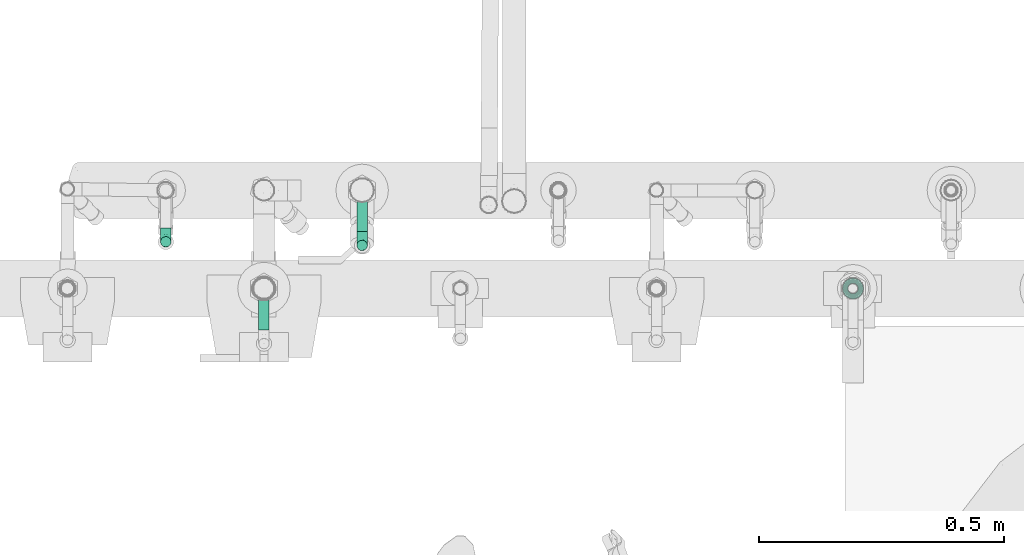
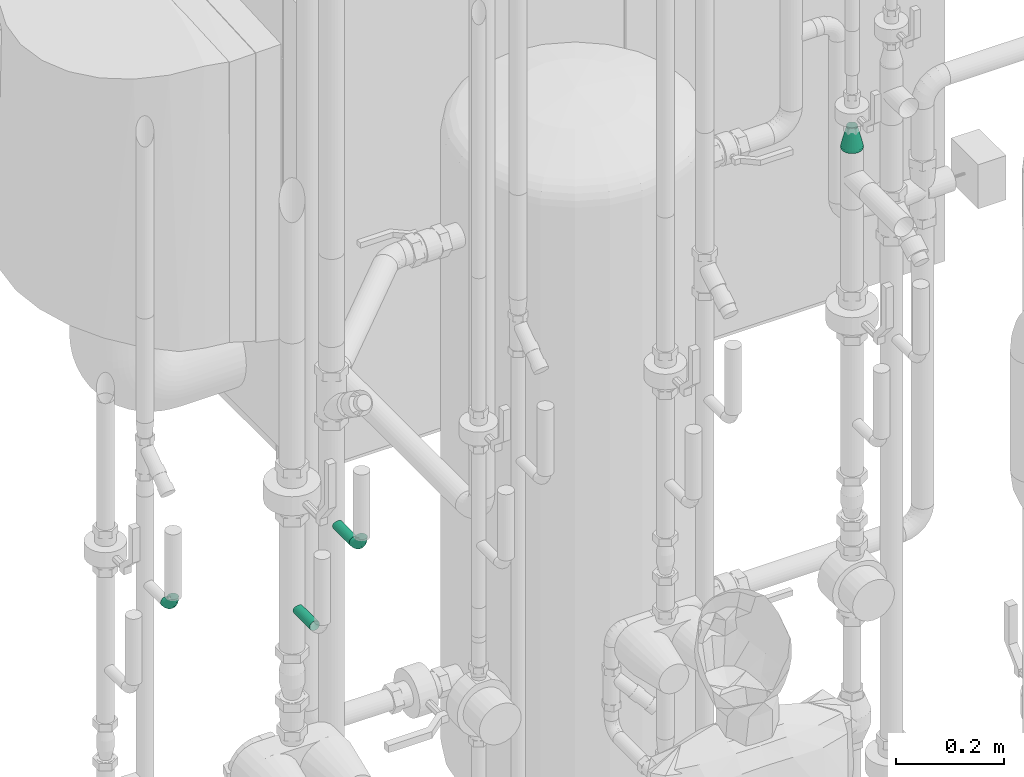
# One storey, part 191 of 374: 4 flow segments, 1 flow fitting.
"""IFC2X3 building model written with IfcOpenShell, lengths in metres."""

from ifc_helpers import new_model, si_unit, direction, origin, place, context, subcontext, project, spatial, open_shell, surface_model, source, transform, mapped, element, save


model = new_model("IFC2X3")

# Units and contexts
model_context = context("Model", 3, precision=1e-05, world=origin(), true_north=direction((-0.4480736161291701, 0.8939966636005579)))
body_context = subcontext(model_context, "Body", "Model", "MODEL_VIEW")
ifc_project = project(units=[si_unit("LENGTHUNIT", "METRE"), si_unit("AREAUNIT", "SQUARE_METRE"), si_unit("VOLUMEUNIT", "CUBIC_METRE"), si_unit("PLANEANGLEUNIT", "RADIAN"), si_unit("THERMODYNAMICTEMPERATUREUNIT", "KELVIN"), si_unit("MASSUNIT", "GRAM", prefix="KILO"), si_unit("TIMEUNIT", "SECOND")], contexts=[model_context])

# Site, building, storey
site_placement = place(None, origin())
site = spatial("IfcSite", under=ifc_project, at=site_placement, Name="Site 1", CompositionType="ELEMENT")
building_placement = place(site_placement, origin())
building = spatial("IfcBuilding", under=site, at=building_placement, Name="Undefined", CompositionType="ELEMENT")
storey_placement = place(building_placement, origin())
storey = spatial("IfcBuildingStorey", under=building, at=storey_placement, Name="Rez de chauss\x8ee", CompositionType="ELEMENT", Elevation=0.0)

# Flow fitting
shared_shape_1 = source(origin(), body_context, "Body", "SurfaceModel", [
    surface_model("IfcFaceBasedSurfaceModel", [(0.0, 0.0, 0.0), (0.005534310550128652, 0.0, 0.0), (0.005534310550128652, 0.004604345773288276, 0.0), (-8.8817842e-16, 0.004604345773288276, 7.105427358e-15), (0.010880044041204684, 0.0, -0.0014323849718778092), (0.010880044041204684, 0.004604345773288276, -0.0014323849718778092), (0.015672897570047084, 0.0, -0.004199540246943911), (0.015672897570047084, 0.004604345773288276, -0.004199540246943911), (0.01958624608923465, 0.0, -0.008112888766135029), (0.01958624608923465, 0.004604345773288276, -0.008112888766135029), (0.022353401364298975, 0.0, -0.012905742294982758), (0.022353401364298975, 0.004604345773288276, -0.012905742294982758), (0.023785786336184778, 0.0, -0.018251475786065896), (0.023785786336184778, 0.004604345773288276, -0.018251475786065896), (0.023785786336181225, 0.0, -0.02378578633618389), (0.023785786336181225, 0.004604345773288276, -0.02378578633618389), (0.022353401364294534, 0.0, -0.029131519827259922), (0.022353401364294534, 0.004604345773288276, -0.029131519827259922), (0.019586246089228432, 0.0, -0.033924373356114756), (0.019586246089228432, 0.004604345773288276, -0.033924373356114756), (0.01567289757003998, 0.0, -0.03783772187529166), (0.01567289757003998, 0.004604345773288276, -0.03783772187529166), (0.010880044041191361, 0.0, -0.040604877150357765), (0.010880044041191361, 0.004604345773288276, -0.040604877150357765), (0.005534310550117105, 0.0, -0.04203726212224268), (0.005534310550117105, 0.004604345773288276, -0.04203726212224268), (0.0, 6.4837024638e-14, -0.042037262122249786), (-1.5099033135e-14, 0.004604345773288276, -0.042037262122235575), (-0.0053457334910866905, 0.0, -0.040604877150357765), (-0.0053457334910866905, 0.004604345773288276, -0.040604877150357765), (-0.010138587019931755, 0.0, -0.03783772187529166), (-0.010138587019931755, 0.004604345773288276, -0.03783772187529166), (-0.01405193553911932, 0.0, -0.033924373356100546), (-0.01405193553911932, 0.004604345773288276, -0.033924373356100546), (-0.016819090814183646, 0.0, -0.029131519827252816), (-0.016819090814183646, 0.004604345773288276, -0.029131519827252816), (-0.01825147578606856, 0.0, -0.02378578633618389), (-0.01825147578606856, 0.004604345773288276, -0.02378578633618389), (-0.018251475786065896, 0.0, -0.018251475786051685), (-0.018251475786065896, 0.004604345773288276, -0.018251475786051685), (-0.016819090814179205, 0.0, -0.012905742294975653), (-0.016819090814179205, 0.004604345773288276, -0.012905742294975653), (-0.014051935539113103, 0.0, -0.008112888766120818), (-0.014051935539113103, 0.004604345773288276, -0.008112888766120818), (-0.010138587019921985, 0.0, -0.004199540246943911), (-0.010138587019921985, 0.004604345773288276, -0.004199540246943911), (-0.005345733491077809, 0.0, -0.0014323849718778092), (-0.005345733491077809, 0.004604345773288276, -0.0014323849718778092), (-0.007791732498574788, 0.04708109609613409, -0.019628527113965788), (-0.0077917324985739, 0.04708109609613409, -0.02240873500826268), (-0.00707216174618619, 0.04708109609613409, -0.01694305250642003), (-0.00568205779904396, 0.04708109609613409, -0.014535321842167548), (-0.0037161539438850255, 0.04708109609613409, -0.012569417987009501), (-0.0013084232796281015, 0.04708109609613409, -0.011179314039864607), (0.0013770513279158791, 0.04708109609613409, -0.010459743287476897), (0.004157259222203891, 0.04708109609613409, -0.010459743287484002), (0.006842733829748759, 0.04708109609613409, -0.011179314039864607), (0.009250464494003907, 0.04708109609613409, -0.012569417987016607), (0.011216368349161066, 0.04708109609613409, -0.014535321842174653), (0.012606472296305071, 0.04708109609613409, -0.01694305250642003), (0.013326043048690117, 0.04708109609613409, -0.019628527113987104), (0.013326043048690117, 0.04708109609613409, -0.02240873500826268), (0.012606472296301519, 0.04708109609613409, -0.025094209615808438), (0.011216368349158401, 0.04708109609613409, -0.02750194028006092), (0.009250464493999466, 0.04708109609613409, -0.029467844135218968), (0.00684273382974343, 0.04708109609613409, -0.030857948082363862), (0.004157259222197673, 0.04708109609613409, -0.03157751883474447), (0.0013770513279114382, 0.04708109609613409, -0.03157751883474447), (-0.0013084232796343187, 0.04708109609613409, -0.030857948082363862), (-0.0037161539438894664, 0.04708109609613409, -0.029467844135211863), (-0.005682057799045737, 0.04708109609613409, -0.027501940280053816), (-0.007072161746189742, 0.04708109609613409, -0.025094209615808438), (0.004157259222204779, 0.04999999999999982, -0.010459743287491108), (0.0013770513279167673, 0.04999999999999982, -0.010459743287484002), (0.006842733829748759, 0.04999999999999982, -0.011179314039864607), (0.00925046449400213, 0.04999999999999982, -0.012569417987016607), (0.011216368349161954, 0.04999999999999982, -0.014535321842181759), (0.012606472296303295, 0.04999999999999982, -0.01694305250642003), (0.01332604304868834, 0.04999999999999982, -0.019628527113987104), (0.013326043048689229, 0.04999999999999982, -0.022408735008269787), (0.012606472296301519, 0.04999999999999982, -0.025094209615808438), (0.011216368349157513, 0.04999999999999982, -0.027501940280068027), (0.009250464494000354, 0.04999999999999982, -0.029467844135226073), (0.00684273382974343, 0.04999999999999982, -0.030857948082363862), (0.004157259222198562, 0.04999999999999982, -0.03157751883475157), (0.0013770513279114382, 0.04999999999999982, -0.03157751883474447), (-0.0013084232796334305, 0.04999999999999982, -0.030857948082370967), (-0.003716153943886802, 0.04999999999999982, -0.029467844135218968), (-0.005682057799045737, 0.04999999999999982, -0.027501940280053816), (-0.007072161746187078, 0.04999999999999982, -0.025094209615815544), (-0.007791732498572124, 0.04999999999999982, -0.02240873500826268), (-0.007791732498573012, 0.04999999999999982, -0.019628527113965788), (-0.0070721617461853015, 0.04999999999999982, -0.016943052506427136), (-0.005682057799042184, 0.04999999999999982, -0.014535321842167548), (-0.0037161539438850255, 0.04999999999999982, -0.012569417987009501), (-0.0013084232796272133, 0.04999999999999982, -0.011179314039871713)], [open_shell([[[0, 1, 2, 3]], [[1, 4, 5, 2]], [[4, 6, 7, 5]], [[6, 8, 9, 7]], [[8, 10, 11, 9]], [[10, 12, 13, 11]], [[12, 14, 15, 13]], [[14, 16, 17, 15]], [[16, 18, 19, 17]], [[18, 20, 21, 19]], [[20, 22, 23, 21]], [[22, 24, 25, 23]], [[24, 26, 27, 25]], [[26, 28, 29, 27]], [[28, 30, 31, 29]], [[30, 32, 33, 31]], [[32, 34, 35, 33]], [[34, 36, 37, 35]], [[36, 38, 39, 37]], [[38, 40, 41, 39]], [[40, 42, 43, 41]], [[42, 44, 45, 43]], [[44, 46, 47, 45]], [[46, 0, 3, 47]], [[37, 39, 48, 49]], [[39, 41, 50, 48]], [[41, 43, 51, 50]], [[43, 45, 52, 51]], [[45, 47, 53, 52]], [[47, 3, 54, 53]], [[3, 2, 55, 54]], [[2, 5, 56, 55]], [[5, 7, 57, 56]], [[7, 9, 58, 57]], [[9, 11, 59, 58]], [[11, 13, 60, 59]], [[13, 15, 61, 60]], [[15, 17, 62, 61]], [[17, 19, 63, 62]], [[19, 21, 64, 63]], [[21, 23, 65, 64]], [[23, 25, 66, 65]], [[25, 27, 67, 66]], [[27, 29, 68, 67]], [[29, 31, 69, 68]], [[31, 33, 70, 69]], [[33, 35, 71, 70]], [[35, 37, 49, 71]], [[54, 55, 72, 73]], [[55, 56, 74, 72]], [[56, 57, 75, 74]], [[57, 58, 76, 75]], [[58, 59, 77, 76]], [[59, 60, 78, 77]], [[60, 61, 79, 78]], [[61, 62, 80, 79]], [[62, 63, 81, 80]], [[63, 64, 82, 81]], [[64, 65, 83, 82]], [[65, 66, 84, 83]], [[66, 67, 85, 84]], [[67, 68, 86, 85]], [[68, 69, 87, 86]], [[69, 70, 88, 87]], [[70, 71, 89, 88]], [[71, 49, 90, 89]], [[49, 48, 91, 90]], [[48, 50, 92, 91]], [[50, 51, 93, 92]], [[51, 52, 94, 93]], [[52, 53, 95, 94]], [[53, 54, 73, 95]]])]),
])
flow_fitting_placement = place(storey_placement, origin())
element("IfcFlowFitting", 1, at=flow_fitting_placement, inside=storey, Name="Réduction", ObjectType="Réduction", context=body_context, shape_type="MappedRepresentation", body=[
    mapped(shared_shape_1, transform((53.6787620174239, 10.718037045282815, 2.0783203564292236), x_axis=(-0.13052619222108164, 0.9914448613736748, 0.0), y_axis=(0.0, 0.0, 1.0), z_axis=(0.9914448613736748, 0.13052619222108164, 0.0))),
])

# Flow segments
shared_shape_2 = source(origin(), body_context, "Body", "SurfaceModel", [
    surface_model("IfcFaceBasedSurfaceModel", [(0.010089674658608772, 0.0, 1.33226763e-15), (0.010042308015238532, 0.002779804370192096, 1.33226763e-15), (4.73666433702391e-05, 0.0027798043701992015, 4.4408921e-16), (0.0, 0.0, 0.0), (-0.009607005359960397, 0.00311462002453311, -0.0025651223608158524), (-0.00974587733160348, 0.0003379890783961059, -0.0025894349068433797), (-0.01826287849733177, 0.003761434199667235, -0.007520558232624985), (-0.018483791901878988, 0.000990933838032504, -0.007591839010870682), (-0.025330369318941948, 0.004676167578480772, -0.014528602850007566), (-0.025618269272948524, 0.001914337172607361, -0.014666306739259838), (-0.030327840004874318, 0.005796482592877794, -0.023111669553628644), (-0.030663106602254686, 0.003045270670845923, -0.023330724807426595), (-0.03291472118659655, 0.00704603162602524, -0.03268483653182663), (-0.03327450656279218, 0.004306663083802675, -0.0329946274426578), (0.009903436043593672, 0.005463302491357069, -0.000713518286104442), (0.000186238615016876, 0.005463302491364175, -0.0007135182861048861), (-0.009199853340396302, 0.005788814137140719, -0.0032073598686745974), (-0.017615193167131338, 0.006417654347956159, -0.008025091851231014), (-0.02448628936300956, 0.007306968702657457, -0.014838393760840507), (-0.029344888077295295, 0.008396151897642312, -0.023182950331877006), (-0.031859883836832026, 0.009610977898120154, -0.0324900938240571), (0.009682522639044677, 0.007867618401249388, -0.002091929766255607), (0.0004071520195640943, 0.007867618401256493, -0.002091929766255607), (-0.008552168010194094, 0.008178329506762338, -0.004472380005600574), (-0.0165848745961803, 0.008778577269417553, -0.00907105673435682), (-0.023143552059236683, 0.00962745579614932, -0.015574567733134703), (-0.027781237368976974, 0.010667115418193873, -0.023539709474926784), (-0.030181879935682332, 0.011826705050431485, -0.03242367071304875), (0.009394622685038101, 0.009828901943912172, -0.0040412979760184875), (0.000695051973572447, 0.009828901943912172, -0.0040412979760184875), (-0.007708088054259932, 0.010120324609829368, -0.006273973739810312), (-0.015242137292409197, 0.010683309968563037, -0.010587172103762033), (-0.02139366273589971, 0.011479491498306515, -0.01668695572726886), (-0.0257434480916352, 0.012454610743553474, -0.02415763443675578), (-0.027995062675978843, 0.013542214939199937, -0.03249009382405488), (0.00905935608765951, 0.011213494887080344, -0.006428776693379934), (0.0010303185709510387, 0.01121349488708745, -0.006428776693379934), (-0.006725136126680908, 0.011482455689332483, -0.00848936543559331), (-0.0136784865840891, 0.01200204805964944, -0.01247011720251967), (-0.01935587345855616, 0.012736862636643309, -0.018099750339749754), (-0.02337039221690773, 0.013636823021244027, -0.024994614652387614), (-0.02544846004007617, 0.014640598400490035, -0.03268483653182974), (0.008699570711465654, 0.01192703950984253, -0.009091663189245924), (0.001390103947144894, 0.01192703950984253, -0.009091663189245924), (-0.005670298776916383, 0.01217189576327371, -0.010967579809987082), (-0.01200048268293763, 0.012644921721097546, -0.014591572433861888), (-0.017169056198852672, 0.013313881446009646, -0.01971667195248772), (-0.02082378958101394, 0.014133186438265, -0.025993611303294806), (-0.02271561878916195, 0.01504700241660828, -0.032994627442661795), (0.008339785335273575, 0.011920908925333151, -0.011848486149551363), (0.0017498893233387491, 0.011920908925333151, -0.011848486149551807), (-0.0046154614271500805, 0.012141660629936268, -0.013539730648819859), (-0.01032247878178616, 0.012568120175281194, -0.016806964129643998), (-0.014982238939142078, 0.013171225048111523, -0.02142753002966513), (-0.018277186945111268, 0.01390987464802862, -0.027086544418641), (-0.01998277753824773, 0.01473373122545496, -0.033398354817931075), (0.008004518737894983, 0.011195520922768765, -0.01451137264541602), (0.0020851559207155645, 0.011195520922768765, -0.014511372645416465), (-0.003632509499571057, 0.011393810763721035, -0.016030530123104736), (-0.008758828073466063, 0.011776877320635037, -0.018965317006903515), (-0.01294444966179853, 0.012318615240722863, -0.023115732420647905), (-0.01590413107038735, 0.012982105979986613, -0.028198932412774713), (-0.017436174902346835, 0.013722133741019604, -0.03386850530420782), (0.007716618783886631, 0.009800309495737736, -0.016898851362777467), (0.002373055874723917, 0.009800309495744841, -0.016898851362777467), (-0.0027884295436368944, 0.009979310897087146, -0.018270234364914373), (-0.007416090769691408, 0.010325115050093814, -0.020919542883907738), (-0.01119456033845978, 0.010814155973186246, -0.024666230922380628), (-0.013866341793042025, 0.011413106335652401, -0.02925496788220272), (-0.015249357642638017, 0.012081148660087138, -0.03437303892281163), (0.007495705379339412, 0.007830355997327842, -0.018848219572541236), (0.002593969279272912, 0.007830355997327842, -0.018848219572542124), (-0.00214074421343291, 0.00799455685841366, -0.02010621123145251), (-0.006385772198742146, 0.008311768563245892, -0.022536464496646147), (-0.009851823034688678, 0.008760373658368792, -0.025973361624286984), (-0.012302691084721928, 0.00930980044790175, -0.03018268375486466), (-0.013571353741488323, 0.009922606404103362, -0.034877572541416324), (0.007356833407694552, 0.0054199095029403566, -0.020226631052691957), (0.002732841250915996, 0.005419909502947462, -0.0202266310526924), (-0.0017335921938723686, 0.005574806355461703, -0.021413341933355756), (-0.005738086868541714, 0.005874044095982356, -0.023705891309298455), (-0.009007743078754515, 0.006297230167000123, -0.026948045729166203), (-0.011319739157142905, 0.006815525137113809, -0.030918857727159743), (-0.012516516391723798, 0.007393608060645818, -0.03534772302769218), (0.007309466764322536, 0.0027332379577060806, -0.020940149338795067), (0.0027802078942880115, 0.002733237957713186, -0.020940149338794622), (-0.001594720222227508, 0.0028849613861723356, -0.022102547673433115), (-0.0055171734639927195, 0.0031780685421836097, -0.024348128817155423), (-0.008719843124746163, 0.003592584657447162, -0.027523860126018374), (-0.010984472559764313, 0.004100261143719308, -0.03141332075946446), (-0.012156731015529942, 0.004666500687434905, -0.035751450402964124), (0.007356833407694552, -4.656641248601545e-05, -0.020940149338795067), (0.0027328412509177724, -4.656641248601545e-05, -0.0209401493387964), (-0.0017335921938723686, 0.00010833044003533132, -0.022126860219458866), (-0.005738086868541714, 0.00040756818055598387, -0.024419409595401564), (-0.009007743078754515, 0.0008307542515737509, -0.027661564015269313), (-0.011319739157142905, 0.0013490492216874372, -0.03163237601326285), (-0.012516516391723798, 0.0019271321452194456, -0.03606124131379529), (0.007495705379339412, -0.002730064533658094, -0.020226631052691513), (0.002593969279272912, -0.002730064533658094, -0.0202266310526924), (-0.00214074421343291, -0.002565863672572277, -0.021484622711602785), (-0.006385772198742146, -0.002248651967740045, -0.023914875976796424), (-0.009851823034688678, -0.0018000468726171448, -0.02735177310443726), (-0.012302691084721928, -0.0012506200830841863, -0.031561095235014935), (-0.013571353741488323, -0.0006378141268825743, -0.0362559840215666), (0.007716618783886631, -0.005134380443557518, -0.01884821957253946), (0.002373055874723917, -0.0051343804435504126, -0.01884821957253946), (-0.0027884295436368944, -0.004955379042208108, -0.020219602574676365), (-0.007416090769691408, -0.00460957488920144, -0.02286891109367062), (-0.01119456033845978, -0.004120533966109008, -0.026615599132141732), (-0.013866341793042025, -0.0035215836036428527, -0.031204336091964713), (-0.015249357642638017, -0.002853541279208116, -0.03632240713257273), (0.008004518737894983, -0.007095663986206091, -0.01689885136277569), (0.0020851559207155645, -0.007095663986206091, -0.016898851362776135), (-0.003632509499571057, -0.006897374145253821, -0.018418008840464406), (-0.008758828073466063, -0.006514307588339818, -0.021352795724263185), (-0.01294444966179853, -0.005972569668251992, -0.025503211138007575), (-0.01590413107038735, -0.005309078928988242, -0.030586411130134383), (-0.017436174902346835, -0.0045690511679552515, -0.03625598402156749), (0.008339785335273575, -0.008480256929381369, -0.014511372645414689), (0.0017498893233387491, -0.008480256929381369, -0.014511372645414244), (-0.0046154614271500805, -0.008259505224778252, -0.016202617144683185), (-0.01032247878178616, -0.007833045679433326, -0.019469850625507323), (-0.014982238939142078, -0.007229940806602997, -0.024090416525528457), (-0.018277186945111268, -0.006491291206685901, -0.029749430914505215), (-0.01998277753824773, -0.00566743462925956, -0.0360612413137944), (0.008699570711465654, -0.009193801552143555, -0.011848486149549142), (0.001390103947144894, -0.009193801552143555, -0.011848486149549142), (-0.005670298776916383, -0.008948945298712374, -0.013724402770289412), (-0.01200048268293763, -0.008475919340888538, -0.017348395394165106), (-0.017169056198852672, -0.007806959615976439, -0.022473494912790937), (-0.02082378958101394, -0.006987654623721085, -0.028750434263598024), (-0.02271561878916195, -0.006073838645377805, -0.035751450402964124), (0.00905935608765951, -0.009187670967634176, -0.00909166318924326), (0.0010303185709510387, -0.00918767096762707, -0.00909166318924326), (-0.006725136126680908, -0.008918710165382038, -0.011152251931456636), (-0.0136784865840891, -0.00839911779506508, -0.015133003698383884), (-0.01935587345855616, -0.007664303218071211, -0.02076263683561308), (-0.02337039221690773, -0.006764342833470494, -0.02765750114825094), (-0.02544846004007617, -0.005760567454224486, -0.03534772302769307), (0.009394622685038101, -0.008462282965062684, -0.006428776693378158), (0.000695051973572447, -0.008462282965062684, -0.006428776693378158), (-0.007708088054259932, -0.008170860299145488, -0.008661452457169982), (-0.015242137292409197, -0.0076078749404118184, -0.012974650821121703), (-0.02139366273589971, -0.00681169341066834, -0.01907443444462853), (-0.0257434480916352, -0.005836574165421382, -0.02654511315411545), (-0.027995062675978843, -0.004748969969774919, -0.03487757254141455), (0.009682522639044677, -0.007067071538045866, -0.004041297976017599), (0.0004071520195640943, -0.0070670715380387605, -0.004041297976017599), (-0.008552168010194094, -0.006756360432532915, -0.006421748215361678), (-0.0165848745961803, -0.0061561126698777, -0.011020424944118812), (-0.023143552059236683, -0.0053072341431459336, -0.017523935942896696), (-0.027781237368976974, -0.0042675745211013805, -0.02548907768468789), (-0.030181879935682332, -0.0031079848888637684, -0.03437303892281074), (0.009903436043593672, -0.005097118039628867, -0.0020919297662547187), (0.000186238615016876, -0.005097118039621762, -0.002091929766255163), (-0.009199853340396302, -0.004771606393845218, -0.004585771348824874), (-0.017615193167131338, -0.004142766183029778, -0.009403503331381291), (-0.02448628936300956, -0.0032534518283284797, -0.016216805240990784), (-0.029344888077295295, -0.0021642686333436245, -0.024561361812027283), (-0.031859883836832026, -0.0009494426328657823, -0.033868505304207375), (0.010042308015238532, -0.002686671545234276, -0.0007135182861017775), (4.73666433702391e-05, -0.0026866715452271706, -0.0007135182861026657), (-0.009607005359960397, -0.002351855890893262, -0.003278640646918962), (-0.01826287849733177, -0.0017050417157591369, -0.008234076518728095), (-0.025330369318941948, -0.0007903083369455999, -0.015242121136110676), (-0.030327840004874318, 0.0003300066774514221, -0.023825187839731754), (-0.03291472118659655, 0.0015795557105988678, -0.03339835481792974)], [open_shell([[[0, 1, 2, 3]], [[3, 2, 4, 5]], [[5, 4, 6, 7]], [[7, 6, 8, 9]], [[9, 8, 10, 11]], [[11, 10, 12, 13]], [[1, 14, 15, 2]], [[2, 15, 16, 4]], [[4, 16, 17, 6]], [[6, 17, 18, 8]], [[8, 18, 19, 10]], [[10, 19, 20, 12]], [[14, 21, 22, 15]], [[15, 22, 23, 16]], [[16, 23, 24, 17]], [[17, 24, 25, 18]], [[18, 25, 26, 19]], [[19, 26, 27, 20]], [[21, 28, 29, 22]], [[22, 29, 30, 23]], [[23, 30, 31, 24]], [[24, 31, 32, 25]], [[25, 32, 33, 26]], [[26, 33, 34, 27]], [[28, 35, 36, 29]], [[29, 36, 37, 30]], [[30, 37, 38, 31]], [[31, 38, 39, 32]], [[32, 39, 40, 33]], [[33, 40, 41, 34]], [[35, 42, 43, 36]], [[36, 43, 44, 37]], [[37, 44, 45, 38]], [[38, 45, 46, 39]], [[39, 46, 47, 40]], [[40, 47, 48, 41]], [[42, 49, 50, 43]], [[43, 50, 51, 44]], [[44, 51, 52, 45]], [[45, 52, 53, 46]], [[46, 53, 54, 47]], [[47, 54, 55, 48]], [[49, 56, 57, 50]], [[50, 57, 58, 51]], [[51, 58, 59, 52]], [[52, 59, 60, 53]], [[53, 60, 61, 54]], [[54, 61, 62, 55]], [[56, 63, 64, 57]], [[57, 64, 65, 58]], [[58, 65, 66, 59]], [[59, 66, 67, 60]], [[60, 67, 68, 61]], [[61, 68, 69, 62]], [[63, 70, 71, 64]], [[64, 71, 72, 65]], [[65, 72, 73, 66]], [[66, 73, 74, 67]], [[67, 74, 75, 68]], [[68, 75, 76, 69]], [[70, 77, 78, 71]], [[71, 78, 79, 72]], [[72, 79, 80, 73]], [[73, 80, 81, 74]], [[74, 81, 82, 75]], [[75, 82, 83, 76]], [[77, 84, 85, 78]], [[78, 85, 86, 79]], [[79, 86, 87, 80]], [[80, 87, 88, 81]], [[81, 88, 89, 82]], [[82, 89, 90, 83]], [[84, 91, 92, 85]], [[85, 92, 93, 86]], [[86, 93, 94, 87]], [[87, 94, 95, 88]], [[88, 95, 96, 89]], [[89, 96, 97, 90]], [[91, 98, 99, 92]], [[92, 99, 100, 93]], [[93, 100, 101, 94]], [[94, 101, 102, 95]], [[95, 102, 103, 96]], [[96, 103, 104, 97]], [[98, 105, 106, 99]], [[99, 106, 107, 100]], [[100, 107, 108, 101]], [[101, 108, 109, 102]], [[102, 109, 110, 103]], [[103, 110, 111, 104]], [[105, 112, 113, 106]], [[106, 113, 114, 107]], [[107, 114, 115, 108]], [[108, 115, 116, 109]], [[109, 116, 117, 110]], [[110, 117, 118, 111]], [[112, 119, 120, 113]], [[113, 120, 121, 114]], [[114, 121, 122, 115]], [[115, 122, 123, 116]], [[116, 123, 124, 117]], [[117, 124, 125, 118]], [[119, 126, 127, 120]], [[120, 127, 128, 121]], [[121, 128, 129, 122]], [[122, 129, 130, 123]], [[123, 130, 131, 124]], [[124, 131, 132, 125]], [[126, 133, 134, 127]], [[127, 134, 135, 128]], [[128, 135, 136, 129]], [[129, 136, 137, 130]], [[130, 137, 138, 131]], [[131, 138, 139, 132]], [[133, 140, 141, 134]], [[134, 141, 142, 135]], [[135, 142, 143, 136]], [[136, 143, 144, 137]], [[137, 144, 145, 138]], [[138, 145, 146, 139]], [[140, 147, 148, 141]], [[141, 148, 149, 142]], [[142, 149, 150, 143]], [[143, 150, 151, 144]], [[144, 151, 152, 145]], [[145, 152, 153, 146]], [[147, 154, 155, 148]], [[148, 155, 156, 149]], [[149, 156, 157, 150]], [[150, 157, 158, 151]], [[151, 158, 159, 152]], [[152, 159, 160, 153]], [[154, 161, 162, 155]], [[155, 162, 163, 156]], [[156, 163, 164, 157]], [[157, 164, 165, 158]], [[158, 165, 166, 159]], [[159, 166, 167, 160]], [[161, 0, 3, 162]], [[162, 3, 5, 163]], [[163, 5, 7, 164]], [[164, 7, 9, 165]], [[165, 9, 11, 166]], [[166, 11, 13, 167]]])]),
])
flow_segment_1_placement = place(storey_placement, origin())
element("IfcFlowSegment", 2, at=flow_segment_1_placement, inside=storey, Name="Tube coudé", ObjectType="Tube coudé", context=body_context, shape_type="MappedRepresentation", body=[
    mapped(shared_shape_2, transform((52.657562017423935, 10.823883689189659, 1.4558867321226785), x_axis=(0.0, 0.9914448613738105, -0.13052619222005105), y_axis=(0.9915887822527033, 0.016893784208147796, 0.12832103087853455), z_axis=(0.1294283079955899, -0.12942830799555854, -0.9831056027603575))),
])
flow_segment_2_placement = place(storey_placement, origin())
element("IfcFlowSegment", 3, at=flow_segment_2_placement, inside=storey, Name="Tube coudé", ObjectType="Tube coudé", context=body_context, shape_type="MappedRepresentation", body=[
    mapped(shared_shape_2, transform((52.25756201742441, 10.831183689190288, 1.4558867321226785), x_axis=(0.0, 0.9914448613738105, -0.13052619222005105), y_axis=(0.9915887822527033, 0.016893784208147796, 0.12832103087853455), z_axis=(0.1294283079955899, -0.12942830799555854, -0.9831056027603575))),
])
shared_shape_3 = source(origin(), body_context, "Body", "SurfaceModel", [
    surface_model("IfcFaceBasedSurfaceModel", [(1.776356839e-15, 0.0027802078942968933, 0.0), (0.0, 0.0, 0.0), (0.06015782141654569, 0.0, 0.0), (0.060000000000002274, 0.0027802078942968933, 0.0), (0.0, -0.002685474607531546, -0.0007195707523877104), (0.06059438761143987, -0.002685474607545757, -0.000719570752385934), (1.776356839e-15, -0.00509320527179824, -0.002109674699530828), (0.06120416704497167, -0.00509320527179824, -0.002109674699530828), (1.776356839e-15, -0.007059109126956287, -0.004075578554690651), (0.06183059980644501, -0.007059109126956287, -0.0040755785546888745), (0.0, -0.00844921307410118, -0.00648330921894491), (0.06230056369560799, -0.008449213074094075, -0.00648330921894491), (0.0, -0.009168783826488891, -0.009168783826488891), (0.062475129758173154, -0.009168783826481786, -0.009168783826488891), (0.0, -0.009168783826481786, -0.011948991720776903), (0.06230056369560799, -0.00916878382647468, -0.011948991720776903), (1.776356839e-15, -0.00844921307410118, -0.014634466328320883), (0.06183059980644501, -0.00844921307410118, -0.014634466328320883), (1.776356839e-15, -0.007059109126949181, -0.017042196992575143), (0.06120416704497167, -0.007059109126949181, -0.017042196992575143), (0.0, -0.005093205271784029, -0.019008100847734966), (0.06059438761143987, -0.00509320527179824, -0.01900810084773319), (0.0, -0.0026854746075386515, -0.020398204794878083), (0.06015782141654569, -0.002685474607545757, -0.020398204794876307), (1.776356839e-15, 7.105427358e-15, -0.021117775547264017), (0.060000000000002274, 7.105427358e-15, -0.021117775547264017), (1.776356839e-15, 0.002780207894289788, -0.02111777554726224), (0.06015782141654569, 0.0027802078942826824, -0.021117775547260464), (1.776356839e-15, 0.005465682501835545, -0.020398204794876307), (0.06059438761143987, 0.005465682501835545, -0.020398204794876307), (1.776356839e-15, 0.007873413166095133, -0.01900810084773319), (0.06120416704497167, 0.007873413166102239, -0.019008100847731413), (0.0, 0.00983931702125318, -0.017042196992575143), (0.06183059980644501, 0.009839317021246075, -0.017042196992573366), (1.776356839e-15, 0.011229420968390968, -0.01463446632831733), (0.062300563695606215, 0.011229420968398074, -0.01463446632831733), (1.776356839e-15, 0.011948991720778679, -0.011948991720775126), (0.062475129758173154, 0.011948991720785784, -0.01194899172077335), (1.776356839e-15, 0.011948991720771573, -0.009168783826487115), (0.062300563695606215, 0.011948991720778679, -0.009168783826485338), (0.0, 0.011229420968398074, -0.006483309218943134), (0.06183059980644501, 0.011229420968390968, -0.006483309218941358), (1.776356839e-15, 0.009839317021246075, -0.0040755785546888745), (0.06120416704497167, 0.00983931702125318, -0.004075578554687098), (1.776356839e-15, 0.007873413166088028, -0.0021096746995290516), (0.06059438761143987, 0.007873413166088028, -0.0021096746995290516), (1.776356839e-15, 0.005465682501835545, -0.000719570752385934), (0.06015782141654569, 0.005465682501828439, -0.0007195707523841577)], [open_shell([[[0, 1, 2, 3]], [[1, 4, 5, 2]], [[4, 6, 7, 5]], [[6, 8, 9, 7]], [[8, 10, 11, 9]], [[10, 12, 13, 11]], [[12, 14, 15, 13]], [[14, 16, 17, 15]], [[16, 18, 19, 17]], [[18, 20, 21, 19]], [[20, 22, 23, 21]], [[22, 24, 25, 23]], [[24, 26, 27, 25]], [[26, 28, 29, 27]], [[28, 30, 31, 29]], [[30, 32, 33, 31]], [[32, 34, 35, 33]], [[34, 36, 37, 35]], [[36, 38, 39, 37]], [[38, 40, 41, 39]], [[40, 42, 43, 41]], [[42, 44, 45, 43]], [[44, 46, 47, 45]], [[46, 0, 3, 47]]])]),
])
flow_segment_3_placement = place(storey_placement, origin())
element("IfcFlowSegment", 4, at=flow_segment_3_placement, inside=storey, Name="Piquage sur circulaire 90°", ObjectType="Piquage sur circulaire 90°", context=body_context, shape_type="MappedRepresentation", body=[
    mapped(shared_shape_3, transform((52.460318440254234, 10.633887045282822, 1.475506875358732), x_axis=(0.0, 1.0, 0.0), y_axis=(-0.9914448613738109, 0.0, 0.1305261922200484), z_axis=(0.1305261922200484, 0.0, 0.9914448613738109))),
])
flow_segment_4_placement = place(storey_placement, origin())
element("IfcFlowSegment", 5, at=flow_segment_4_placement, inside=storey, Name="Piquage sur circulaire 90°", ObjectType="Piquage sur circulaire 90°", context=body_context, shape_type="MappedRepresentation", body=[
    mapped(shared_shape_3, transform((52.65480559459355, 10.833887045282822, 1.4549326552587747), x_axis=(0.0, 1.0, 0.0), y_axis=(0.9914448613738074, 0.0, -0.13052619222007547), z_axis=(-0.13052619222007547, 0.0, -0.9914448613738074))),
])

save(model, "model.ifc")
